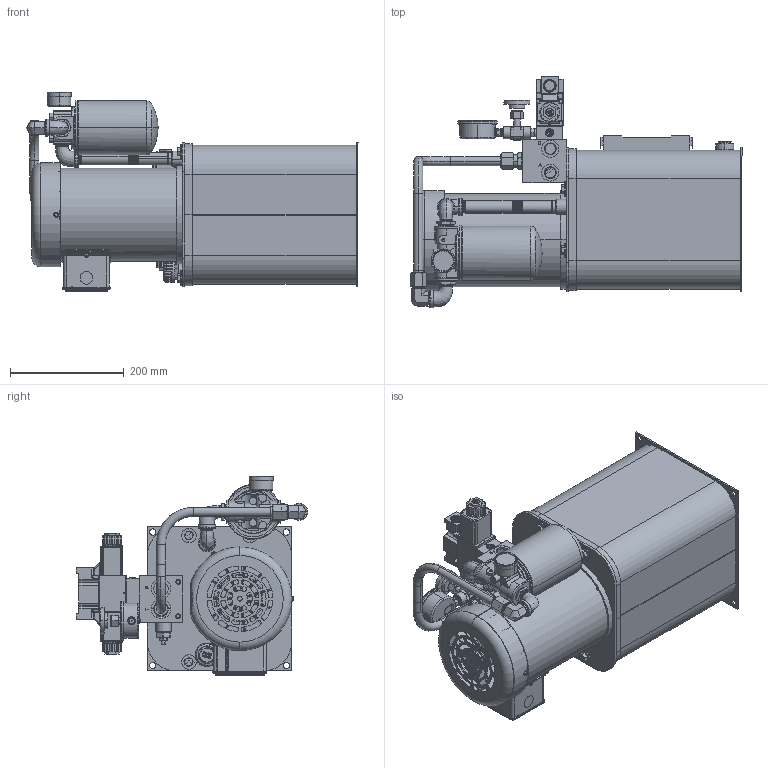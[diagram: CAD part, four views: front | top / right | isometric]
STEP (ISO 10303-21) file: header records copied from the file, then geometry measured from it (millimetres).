
FILE_DESCRIPTION (( 'STEP AP214' ), '1' );
FILE_NAME ('T3V-10-M-P1-F1-069.STEP', '2021-09-18T14:49:12', ( '' ), ( '' ), 'SwSTEP 2.0', 'SolidWorks 2020', '' );
FILE_SCHEMA (( 'AUTOMOTIVE_DESIGN' ));
Length unit declared in the file: inch
Products named in the file (1): T3V-10-M-P1-F1-069
Bounding box: 584.31 x 407.03 x 351.82 mm (x, y, z)
Surface area: 1147511.1 mm2 (no closed solid volume)
Topology: 0 solids, 155 shells, 2129 faces, 8936 edges, 6760 vertices
Faces by surface type: plane 774, cylinder 655, cone 373, bspline 181, torus 116, sphere 30
Entity records: 180107 total; most frequent: CARTESIAN_POINT 83925, DIRECTION 13164, ORIENTED_EDGE 13108, EDGE_CURVE 8912, VERTEX_POINT 6760, AXIS2_PLACEMENT_3D 4533, LINE 4098, VECTOR 4098
